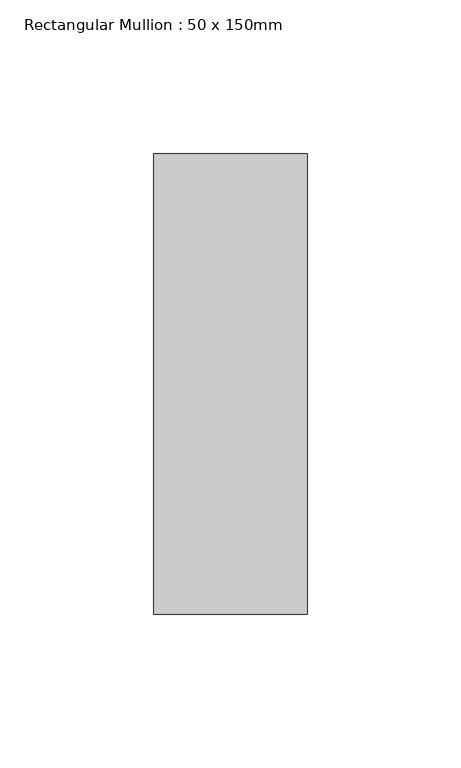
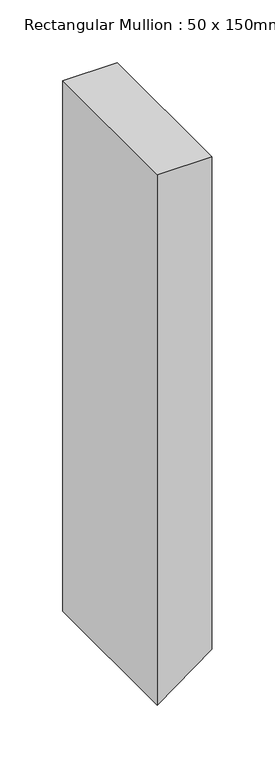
"""IFC4 building model written with IfcOpenShell, lengths in millimetres: member geometry, Rectangular Mullion : 50 x 150mm."""

from ifc_helpers import new_model, si_unit, frame, origin, place, context, project, spatial, polyline, outline, extrude, source, transform, mapped, element, save


def rectangular_mullion_50_x_150mm_2d0deff5(model_context):
    return source(origin(), model_context, "Body", "SweptSolid", [
        extrude(outline(polyline([(0.0, 25.0), (0.0, -25.0), (-514.6219838, -25.0), (-478.0004734, 25.0), (0.0, 25.0)])), frame((0.0, -75.0, 0.0), z_axis=(0.0, 1.0, 0.0), x_axis=(0.0, 0.0, 1.0)), (0.0, 0.0, 1.0), 150.0),
    ])


if __name__ == "__main__":
    model = new_model("IFC4")
    model_context = context("Model", 3, world=origin())
    ifc_project = project(units=[si_unit("LENGTHUNIT", "METRE", prefix="MILLI")], contexts=[model_context])
    site = spatial("IfcSite", under=ifc_project)
    building = spatial("IfcBuilding", under=site)
    placement = place(None, origin())
    rectangular_mullion_50_x_150mm_shape = rectangular_mullion_50_x_150mm_2d0deff5(model_context)
    element("IfcMember", 1, ObjectType="Rectangular Mullion : 50 x 150mm", at=placement, inside=building, context=model_context, shape_type="MappedRepresentation", body=[
        mapped(rectangular_mullion_50_x_150mm_shape, transform((0.0, 0.0, 0.0), x_axis=(1.0, 0.0, 0.0), y_axis=(0.0, 1.0, 0.0), z_axis=(0.0, 0.0, 1.0))),
    ])
    save(model, "model.ifc")
